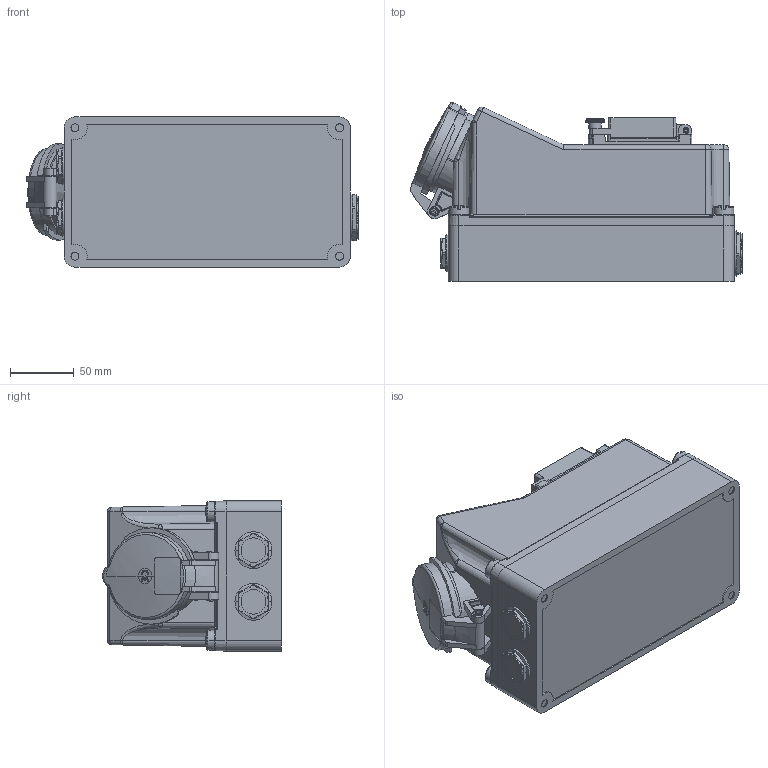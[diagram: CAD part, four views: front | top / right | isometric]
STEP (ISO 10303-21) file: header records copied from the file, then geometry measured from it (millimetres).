
FILE_DESCRIPTION((''),'2;1');
FILE_NAME('1117255_ASM_SW0001','2018-05-28T',('gisse'),('MENNEKES'),'PRO/ENGINEER BY PARAMETRIC TECHNOLOGY CORPORATION, 2015440','PRO/ENGINEER BY PARAMETRIC TECHNOLOGY CORPORATION, 2015440','');
FILE_SCHEMA(('AUTOMOTIVE_DESIGN { 1 0 10303 214 1 1 1 1 }'));
Products named in the file (1): 1117255_ASM_SW0001
Bounding box: 261.02 x 140.56 x 118 mm (x, y, z)
Volume: 2966982.7 mm3; surface area: 153946.7 mm2
Topology: 1 solids, 1 shells, 1097 faces, 2931 edges, 1860 vertices
Faces by surface type: plane 478, cylinder 302, cone 147, bspline 70, torus 52, sphere 38, extrusion 10
Entity records: 63984 total; most frequent: CARTESIAN_POINT 15827, ORIENTED_EDGE 5858, DIRECTION 5110, PRESENTATION_STYLE_ASSIGNMENT 3993, STYLED_ITEM 2940, CURVE_STYLE 2939, EDGE_CURVE 2929, FILL_AREA_STYLE_COLOUR 2107
